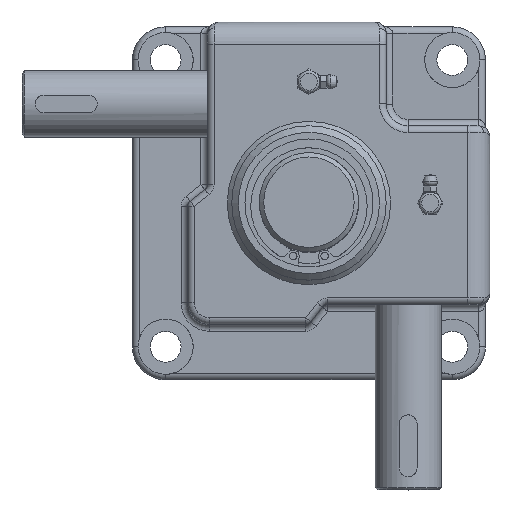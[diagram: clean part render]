
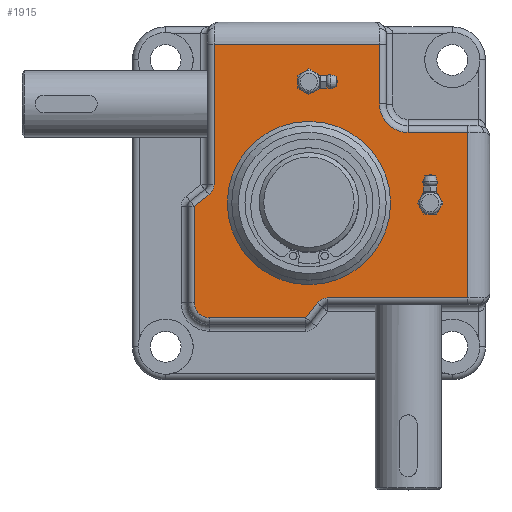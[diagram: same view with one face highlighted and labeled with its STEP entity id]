
A CAD part, top view. The second image highlights one B-rep face of the part: STEP entity #1915.
In plain terms, the highlighted planar face has unit normal (0, 0, 1).
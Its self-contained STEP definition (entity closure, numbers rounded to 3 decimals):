
#1915=ADVANCED_FACE('',(#5042,#5043,#5044,#5045),#5046,.T.);
#5042=FACE_OUTER_BOUND('',#10565,.T.);
#5043=FACE_BOUND('',#10566,.T.);
#5044=FACE_BOUND('',#10567,.T.);
#5045=FACE_BOUND('',#10568,.T.);
#5046=PLANE('',#10569);
#10565=EDGE_LOOP('',(#18389,#18390,#18391,#18392,#18393,#18394,#18395,#18396,#18397,#18398,#18399,#18400,#18401,#18402));
#10566=EDGE_LOOP('',(#18403));
#10567=EDGE_LOOP('',(#18404));
#10568=EDGE_LOOP('',(#18405));
#10569=AXIS2_PLACEMENT_3D('',#18406,#18407,#18408);
#18389=ORIENTED_EDGE('',*,*,#35325,.T.);
#18390=ORIENTED_EDGE('',*,*,#34894,.T.);
#18391=ORIENTED_EDGE('',*,*,#35342,.T.);
#18392=ORIENTED_EDGE('',*,*,#35437,.T.);
#18393=ORIENTED_EDGE('',*,*,#35122,.T.);
#18394=ORIENTED_EDGE('',*,*,#35438,.T.);
#18395=ORIENTED_EDGE('',*,*,#35439,.T.);
#18396=ORIENTED_EDGE('',*,*,#35440,.T.);
#18397=ORIENTED_EDGE('',*,*,#35441,.T.);
#18398=ORIENTED_EDGE('',*,*,#35332,.T.);
#18399=ORIENTED_EDGE('',*,*,#35367,.T.);
#18400=ORIENTED_EDGE('',*,*,#35387,.T.);
#18401=ORIENTED_EDGE('',*,*,#35442,.T.);
#18402=ORIENTED_EDGE('',*,*,#35420,.T.);
#18403=ORIENTED_EDGE('',*,*,#35424,.T.);
#18404=ORIENTED_EDGE('',*,*,#35443,.F.);
#18405=ORIENTED_EDGE('',*,*,#35223,.F.);
#18406=CARTESIAN_POINT('',(0.0,0.0,37.5));
#18407=DIRECTION('',(0.,0.,1.0));
#18408=DIRECTION('',(1.0,0.,0.));
#34894=EDGE_CURVE('',#41689,#41694,#41696,.T.);
#35122=EDGE_CURVE('',#41585,#42114,#42115,.T.);
#35223=EDGE_CURVE('',#42285,#42285,#42286,.T.);
#35325=EDGE_CURVE('',#42444,#41689,#42445,.T.);
#35332=EDGE_CURVE('',#42450,#42454,#42456,.T.);
#35342=EDGE_CURVE('',#41694,#42472,#42474,.T.);
#35367=EDGE_CURVE('',#42454,#42508,#42510,.T.);
#35387=EDGE_CURVE('',#42508,#42539,#42541,.T.);
#35420=EDGE_CURVE('',#42585,#42444,#42589,.T.);
#35424=EDGE_CURVE('',#42595,#42595,#42596,.T.);
#35437=EDGE_CURVE('',#42472,#41585,#42613,.T.);
#35438=EDGE_CURVE('',#42114,#42614,#42615,.T.);
#35439=EDGE_CURVE('',#42614,#42616,#42617,.T.);
#35440=EDGE_CURVE('',#42616,#42295,#42618,.T.);
#35441=EDGE_CURVE('',#42295,#42450,#42619,.T.);
#35442=EDGE_CURVE('',#42539,#42585,#42620,.T.);
#35443=EDGE_CURVE('',#42621,#42621,#42622,.T.);
#41585=VERTEX_POINT('',#53167);
#41689=VERTEX_POINT('',#53325);
#41694=VERTEX_POINT('',#53331);
#41696=LINE('',#53333,#53334);
#42114=VERTEX_POINT('',#54317);
#42115=LINE('',#54318,#54319);
#42285=VERTEX_POINT('',#54576);
#42286=CIRCLE('',#54577,4.0);
#42295=VERTEX_POINT('',#54587);
#42444=VERTEX_POINT('',#54874);
#42445=LINE('',#54875,#54876);
#42450=VERTEX_POINT('',#54881);
#42454=VERTEX_POINT('',#54885);
#42456=CIRCLE('',#54887,7.0);
#42472=VERTEX_POINT('',#54906);
#42474=CIRCLE('',#54908,13.0);
#42508=VERTEX_POINT('',#55007);
#42510=LINE('',#55009,#55010);
#42539=VERTEX_POINT('',#55043);
#42541=LINE('',#55045,#55046);
#42585=VERTEX_POINT('',#55124);
#42589=LINE('',#55129,#55130);
#42595=VERTEX_POINT('',#55139);
#42596=CIRCLE('',#55140,37.0);
#42613=LINE('',#55170,#55171);
#42614=VERTEX_POINT('',#55172);
#42615=LINE('',#55173,#55174);
#42616=VERTEX_POINT('',#55175);
#42617=CIRCLE('',#55176,6.0);
#42618=LINE('',#55177,#55178);
#42619=LINE('',#55179,#55180);
#42620=CIRCLE('',#55181,6.0);
#42621=VERTEX_POINT('',#55182);
#42622=CIRCLE('',#55183,4.0);
#53167=CARTESIAN_POINT('',(32.0,72.0,37.5));
#53325=CARTESIAN_POINT('',(72.0,32.0,37.5));
#53331=CARTESIAN_POINT('',(45.0,32.0,37.5));
#53333=CARTESIAN_POINT('',(8.5,32.0,37.5));
#53334=VECTOR('',#69442,1.0);
#54317=CARTESIAN_POINT('',(-43.0,72.0,37.5));
#54318=CARTESIAN_POINT('',(8.5,72.0,37.5));
#54319=VECTOR('',#69847,1.0);
#54576=CARTESIAN_POINT('',(4.0,55.0,37.5));
#54577=AXIS2_PLACEMENT_3D('',#70041,#70042,#70043);
#54587=CARTESIAN_POINT('',(-52.0,-1.463,37.5));
#54874=CARTESIAN_POINT('',(72.0,-43.0,37.5));
#54875=CARTESIAN_POINT('',(72.0,13.5,37.5));
#54876=VECTOR('',#70242,1.0);
#54881=CARTESIAN_POINT('',(-52.0,-45.0,37.5));
#54885=CARTESIAN_POINT('',(-45.,-52.0,37.5));
#54887=AXIS2_PLACEMENT_3D('',#70261,#70262,#70263);
#54906=CARTESIAN_POINT('',(32.0,45.,37.5));
#54908=AXIS2_PLACEMENT_3D('',#70285,#70286,#70287);
#55007=CARTESIAN_POINT('',(-1.463,-52.0,37.5));
#55009=CARTESIAN_POINT('',(8.5,-52.0,37.5));
#55010=VECTOR('',#70319,1.0);
#55043=CARTESIAN_POINT('',(3.767,-45.306,37.5));
#55045=CARTESIAN_POINT('',(36.874,-2.93,37.5));
#55046=VECTOR('',#70369,1.0);
#55124=CARTESIAN_POINT('',(8.495,-43.0,37.5));
#55129=CARTESIAN_POINT('',(8.5,-43.0,37.5));
#55130=VECTOR('',#70437,1.0);
#55139=CARTESIAN_POINT('',(37.0,0.,37.5));
#55140=AXIS2_PLACEMENT_3D('',#70441,#70442,#70443);
#55170=CARTESIAN_POINT('',(32.0,8.5,37.5));
#55171=VECTOR('',#70469,1.0);
#55172=CARTESIAN_POINT('',(-43.0,8.495,37.5));
#55173=CARTESIAN_POINT('',(-43.0,8.5,37.5));
#55174=VECTOR('',#70470,1.0);
#55175=CARTESIAN_POINT('',(-45.306,3.767,37.5));
#55176=AXIS2_PLACEMENT_3D('',#70471,#70472,#70473);
#55177=CARTESIAN_POINT('',(-2.93,36.874,37.5));
#55178=VECTOR('',#70474,1.0);
#55179=CARTESIAN_POINT('',(-52.0,8.5,37.5));
#55180=VECTOR('',#70475,1.0);
#55181=AXIS2_PLACEMENT_3D('',#70476,#70477,#70478);
#55182=CARTESIAN_POINT('',(59.0,0.,37.5));
#55183=AXIS2_PLACEMENT_3D('',#70479,#70480,#70481);
#69442=DIRECTION('',(-1.0,0.0,0.));
#69847=DIRECTION('',(-1.0,0.0,0.));
#70041=CARTESIAN_POINT('',(0.0,55.0,37.5));
#70042=DIRECTION('',(0.,0.,1.0));
#70043=DIRECTION('',(1.0,0.,0.));
#70242=DIRECTION('',(0.0,1.0,0.));
#70261=CARTESIAN_POINT('',(-45.0,-45.0,37.5));
#70262=DIRECTION('',(0.0,0.0,1.0));
#70263=DIRECTION('',(1.0,0.0,0.0));
#70285=CARTESIAN_POINT('',(45.0,45.0,37.5));
#70286=DIRECTION('',(0.0,0.0,-1.0));
#70287=DIRECTION('',(1.0,0.0,0.0));
#70319=DIRECTION('',(1.0,0.0,0.));
#70369=DIRECTION('',(0.616,0.788,0.));
#70437=DIRECTION('',(1.0,0.0,0.));
#70441=CARTESIAN_POINT('',(0.0,0.,37.5));
#70442=DIRECTION('',(0.,0.,-1.0));
#70443=DIRECTION('',(1.0,0.,0.));
#70469=DIRECTION('',(0.0,1.0,0.));
#70470=DIRECTION('',(0.0,-1.0,0.));
#70471=CARTESIAN_POINT('',(-49.0,8.495,37.5));
#70472=DIRECTION('',(0.,0.,-1.0));
#70473=DIRECTION('',(1.0,0.,0.));
#70474=DIRECTION('',(-0.788,-0.616,0.));
#70475=DIRECTION('',(0.0,-1.0,0.));
#70476=CARTESIAN_POINT('',(8.495,-49.0,37.5));
#70477=DIRECTION('',(0.0,0.0,-1.0));
#70478=DIRECTION('',(1.0,0.0,0.0));
#70479=CARTESIAN_POINT('',(55.0,0.,37.5));
#70480=DIRECTION('',(0.,0.,1.0));
#70481=DIRECTION('',(1.0,0.,0.));
